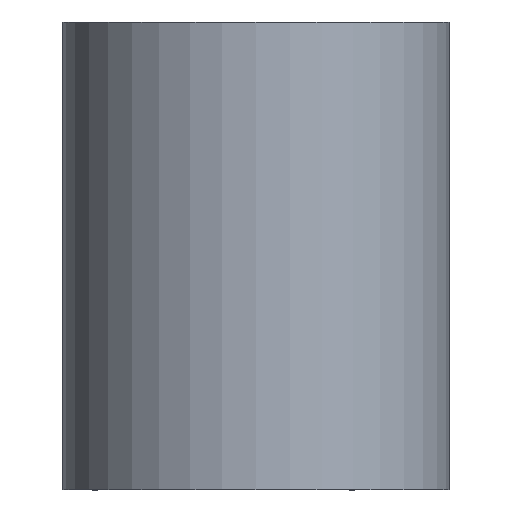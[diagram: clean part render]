
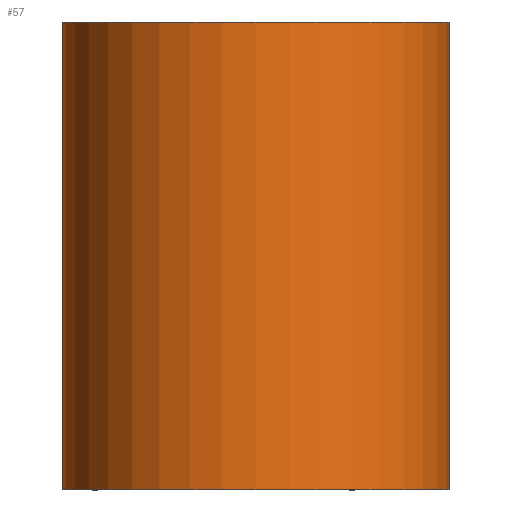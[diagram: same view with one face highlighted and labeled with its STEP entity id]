
A CAD part, left-side view. The second image highlights one B-rep face of the part: STEP entity #57.
In plain terms, the highlighted cylindrical face has radius 8.25 mm (diameter 16.5 mm), a partial arc.
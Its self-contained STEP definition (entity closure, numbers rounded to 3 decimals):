
#57=ADVANCED_FACE('',(#79),#67,.T.);
#67=CYLINDRICAL_SURFACE('',#312,8.25);
#79=FACE_OUTER_BOUND('',#93,.T.);
#93=EDGE_LOOP('',(#174,#175,#176,#177));
#98=LINE('',#403,#118);
#113=LINE('',#461,#133);
#118=VECTOR('',#321,1.);
#133=VECTOR('',#378,1.);
#174=ORIENTED_EDGE('',*,*,#264,.T.);
#175=ORIENTED_EDGE('',*,*,#263,.F.);
#176=ORIENTED_EDGE('',*,*,#265,.F.);
#177=ORIENTED_EDGE('',*,*,#235,.T.);
#210=VERTEX_POINT('',#401);
#212=VERTEX_POINT('',#404);
#232=VERTEX_POINT('',#458);
#233=VERTEX_POINT('',#460);
#235=EDGE_CURVE('',#212,#210,#98,.T.);
#263=EDGE_CURVE('',#233,#232,#113,.T.);
#264=EDGE_CURVE('',#210,#232,#284,.T.);
#265=EDGE_CURVE('',#212,#233,#285,.T.);
#284=CIRCLE('',#310,8.25);
#285=CIRCLE('',#311,8.25);
#310=AXIS2_PLACEMENT_3D('',#463,#381,#382);
#311=AXIS2_PLACEMENT_3D('',#464,#383,#384);
#312=AXIS2_PLACEMENT_3D('',#465,#385,#386);
#321=DIRECTION('',(0.,0.,-1.));
#378=DIRECTION('',(0.,0.,-1.));
#381=DIRECTION('',(0.,0.,1.));
#382=DIRECTION('',(1.,0.,0.));
#383=DIRECTION('',(0.,0.,1.));
#384=DIRECTION('',(1.,0.,0.));
#385=DIRECTION('',(0.,0.,-1.));
#386=DIRECTION('',(-1.,0.,0.));
#401=CARTESIAN_POINT('',(4.142,7.135,0.));
#403=CARTESIAN_POINT('',(4.142,7.135,20.));
#404=CARTESIAN_POINT('',(4.142,7.135,20.));
#458=CARTESIAN_POINT('',(4.142,-7.135,0.));
#460=CARTESIAN_POINT('',(4.142,-7.135,20.));
#461=CARTESIAN_POINT('',(4.142,-7.135,20.));
#463=CARTESIAN_POINT('',(0.,0.,0.));
#464=CARTESIAN_POINT('',(0.,0.,20.));
#465=CARTESIAN_POINT('',(0.,0.,20.));
